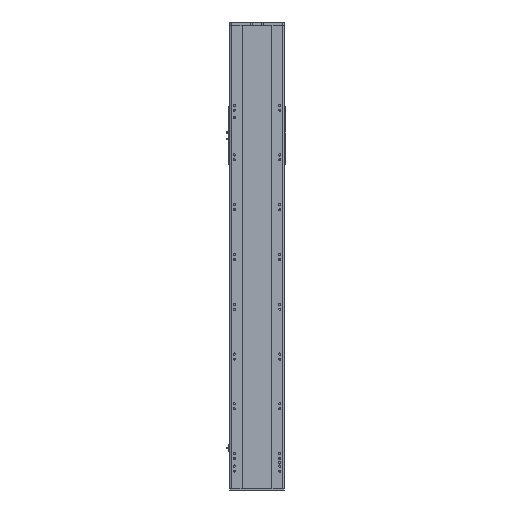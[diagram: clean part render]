
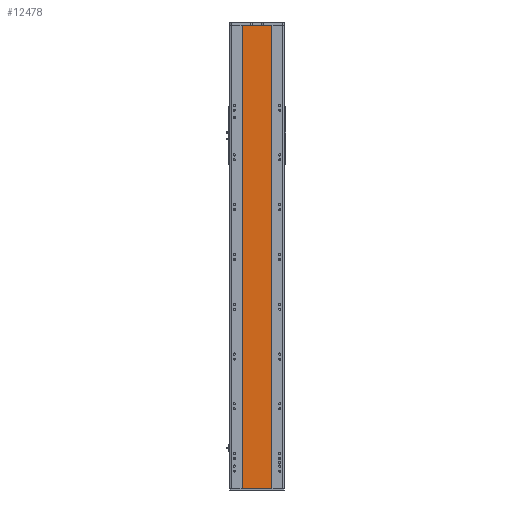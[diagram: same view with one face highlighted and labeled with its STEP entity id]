
A CAD part, front view. The second image highlights one B-rep face of the part: STEP entity #12478.
In plain terms, the highlighted planar face has unit normal (0, -1, 0).
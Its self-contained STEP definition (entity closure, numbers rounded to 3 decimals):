
#2821 = VECTOR ( 'NONE', #10007, 1000. ) ;
#3130 = ORIENTED_EDGE ( 'NONE', *, *, #30138, .F. ) ;
#4726 = DIRECTION ( 'NONE',  ( 1., 0., 0. ) ) ;
#5877 = DIRECTION ( 'NONE',  ( 0., 1., 0. ) ) ;
#6124 = CARTESIAN_POINT ( 'NONE',  ( -59., 1., 930.5 ) ) ;
#6876 = EDGE_CURVE ( 'NONE', #39115, #27582, #12064, .T. ) ;
#7708 = VECTOR ( 'NONE', #4726, 1000. ) ;
#8158 = EDGE_CURVE ( 'NONE', #39115, #38370, #9090, .T. ) ;
#8555 = ORIENTED_EDGE ( 'NONE', *, *, #15197, .T. ) ;
#9090 = LINE ( 'NONE', #34369, #2821 ) ;
#9259 = PLANE ( 'NONE',  #10218 ) ;
#10007 = DIRECTION ( 'NONE',  ( 0., 0., -1. ) ) ;
#10218 = AXIS2_PLACEMENT_3D ( 'NONE', #30668, #5877, #21167 ) ;
#10688 = FACE_OUTER_BOUND ( 'NONE', #24704, .T. ) ;
#11396 = DIRECTION ( 'NONE',  ( 1., 0., 0. ) ) ;
#12064 = LINE ( 'NONE', #26444, #7708 ) ;
#12478 = ADVANCED_FACE ( 'NONE', ( #10688 ), #9259, .F. ) ;
#12906 = CARTESIAN_POINT ( 'NONE',  ( 59., 1., 930.5 ) ) ;
#15197 = EDGE_CURVE ( 'NONE', #38370, #31630, #15325, .T. ) ;
#15325 = LINE ( 'NONE', #39323, #22560 ) ;
#21167 = DIRECTION ( 'NONE',  ( -1., 0., 0. ) ) ;
#22338 = ORIENTED_EDGE ( 'NONE', *, *, #6876, .F. ) ;
#22340 = LINE ( 'NONE', #30298, #30034 ) ;
#22560 = VECTOR ( 'NONE', #11396, 1000. ) ;
#24704 = EDGE_LOOP ( 'NONE', ( #8555, #3130, #22338, #37851 ) ) ;
#26444 = CARTESIAN_POINT ( 'NONE',  ( -59., 1., 930.5 ) ) ;
#27582 = VERTEX_POINT ( 'NONE', #12906 ) ;
#28886 = CARTESIAN_POINT ( 'NONE',  ( 59., 1., -930.5 ) ) ;
#30034 = VECTOR ( 'NONE', #33644, 1000. ) ;
#30138 = EDGE_CURVE ( 'NONE', #27582, #31630, #22340, .T. ) ;
#30298 = CARTESIAN_POINT ( 'NONE',  ( 59., 1., 930.5 ) ) ;
#30668 = CARTESIAN_POINT ( 'NONE',  ( -59., 1., 930.5 ) ) ;
#31265 = CARTESIAN_POINT ( 'NONE',  ( -59., 1., -930.5 ) ) ;
#31630 = VERTEX_POINT ( 'NONE', #28886 ) ;
#33644 = DIRECTION ( 'NONE',  ( 0., 0., -1. ) ) ;
#34369 = CARTESIAN_POINT ( 'NONE',  ( -59., 1., 930.5 ) ) ;
#37851 = ORIENTED_EDGE ( 'NONE', *, *, #8158, .T. ) ;
#38370 = VERTEX_POINT ( 'NONE', #31265 ) ;
#39115 = VERTEX_POINT ( 'NONE', #6124 ) ;
#39323 = CARTESIAN_POINT ( 'NONE',  ( -59., 1., -930.5 ) ) ;
